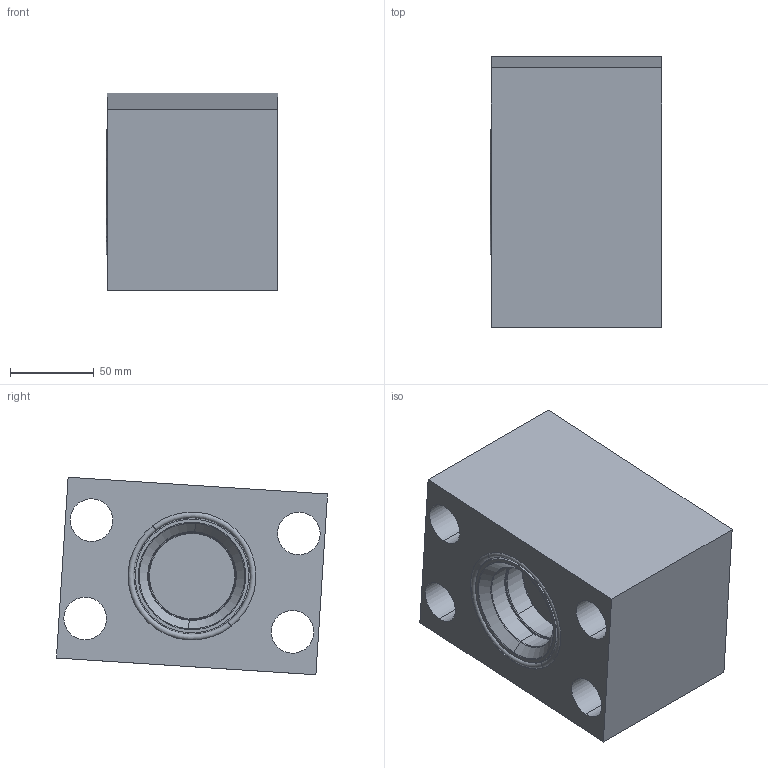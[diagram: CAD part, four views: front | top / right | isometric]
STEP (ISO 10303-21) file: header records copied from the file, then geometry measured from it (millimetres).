
FILE_DESCRIPTION (( 'STEP AP214' ), '1' );
FILE_NAME ('ICFT B 6140 XXXX.STEP', '2026-03-23T15:38:22', ( '' ), ( '' ), 'SwSTEP 2.0', 'SolidWorks 2025', '' );
FILE_SCHEMA (( 'AUTOMOTIVE_DESIGN' ));
Length unit declared in the file: inch
Products named in the file (1): ICFT B 6140 XXXX
Bounding box: 102.13 x 161.56 x 117.7 mm (x, y, z)
Volume: 1258400.1 mm3; surface area: 202824.5 mm2
Topology: 3 solids, 3 shells, 470 faces, 1167 edges, 740 vertices
Faces by surface type: plane 242, bspline 82, cylinder 62, cone 56, torus 28
Entity records: 18352 total; most frequent: CARTESIAN_POINT 7586, ORIENTED_EDGE 2294, DIRECTION 1985, EDGE_CURVE 1147, VECTOR 767, LINE 767, VERTEX_POINT 740, AXIS2_PLACEMENT_3D 609
